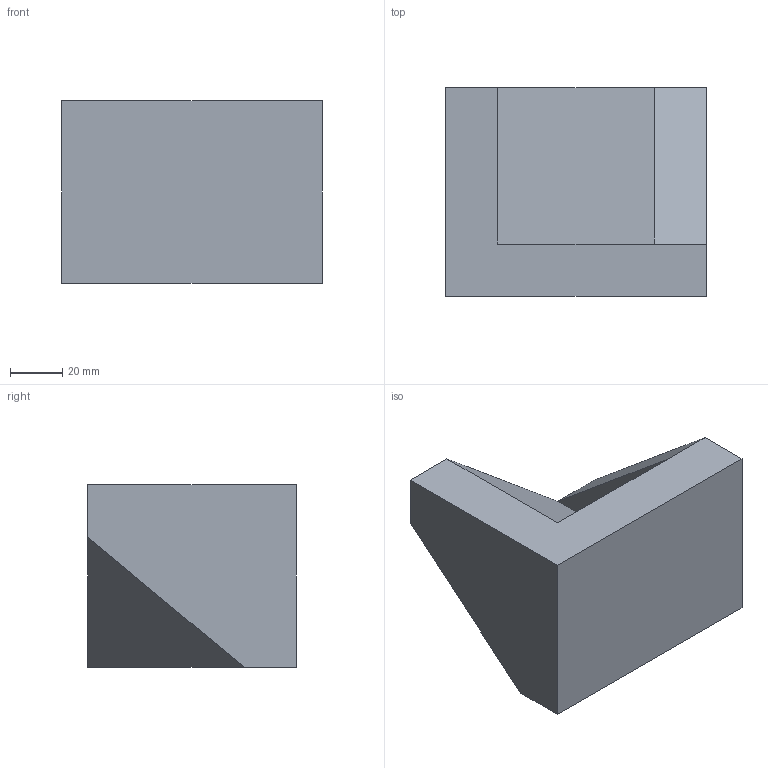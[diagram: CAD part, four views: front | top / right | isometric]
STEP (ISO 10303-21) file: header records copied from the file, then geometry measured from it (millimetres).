
FILE_DESCRIPTION(/* description */ (''),/* implementation_level */ '2;1');
FILE_NAME(/* time_stamp */ '2020-06-16T15:00:42+01:00',/* author */ ('DesignClass.co.uk'),/* originating_system */ 'Solidworks 2021',/* authorisation */ '');
FILE_SCHEMA (('AUTOMOTIVE_DESIGN { 1 0 10303 214 3 1 1 }'));
Length unit declared in the file: millimetre
Products named in the file (1): Task_3
Bounding box: 100 x 80 x 70 mm (x, y, z)
Volume: 320000 mm3; surface area: 42096.4 mm2
Topology: 1 solids, 1 shells, 14 faces, 32 edges, 20 vertices
Faces by surface type: plane 14
Entity records: 425 total; most frequent: CARTESIAN_POINT 67, ORIENTED_EDGE 64, DIRECTION 62, LINE 32, VECTOR 32, EDGE_CURVE 32, VERTEX_POINT 20, AXIS2_PLACEMENT_3D 15
